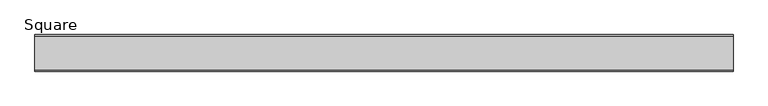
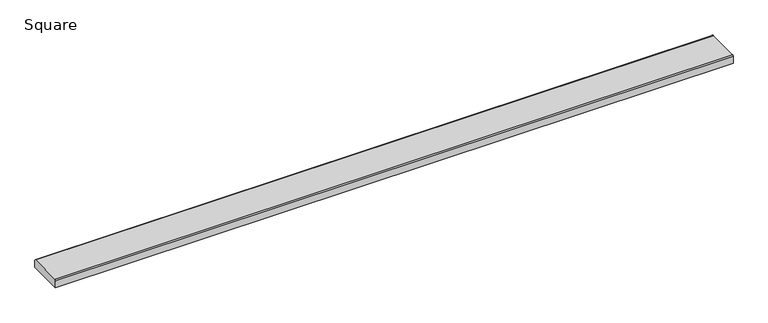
"""IFC4 building model written with IfcOpenShell, lengths in millimetres: sanitary terminal geometry, ZZZ_do not use_PF_ST_UN_grating for ShowerDrain C INT_ACO : Square."""

from ifc_helpers import new_model, si_unit, point, frame, frame_2d, origin, place, context, project, spatial, polyline, circle_curve, trimmed, segment, composite_curve, outline, extrude, source, transform, mapped, element, save


def square_9a3e43a5(model_context):
    return source(origin(), model_context, "Body", "SweptSolid", [
        extrude(outline(composite_curve([segment(polyline([(31.0, -15.0), (-31.0, -15.0), (-31.0, -1.977849)]), True, "CONTINUOUS"), segment(trimmed(circle_curve(frame_2d((-29.022151, -1.977849)), 1.977849), [point((-31.0, -1.977849))], [point((-29.022151, 0.0))], False, "CARTESIAN"), True, "CONTINUOUS"), segment(polyline([(-29.022151, 0.0), (29.022151, 0.0)]), True, "CONTINUOUS"), segment(trimmed(circle_curve(frame_2d((29.022151, -1.977849)), 1.977849), [point((29.022151, 0.0))], [point((31.0, -1.977849))], False, "CARTESIAN"), True, "CONTINUOUS"), segment(polyline([(31.0, -1.977849), (31.0, -15.0)]), True, "CONTINUOUS")], self_intersect=False)), frame((-590.5, 0.0, 0.0), z_axis=(1.0, 0.0, 0.0), x_axis=(0.0, 1.0, 0.0)), (0.0, 0.0, 1.0), 1181.0),
    ])


if __name__ == "__main__":
    model = new_model("IFC4")
    model_context = context("Model", 3, world=origin())
    ifc_project = project(units=[si_unit("LENGTHUNIT", "METRE", prefix="MILLI")], contexts=[model_context])
    site = spatial("IfcSite", under=ifc_project)
    building = spatial("IfcBuilding", under=site)
    placement = place(None, origin())
    square_shape = square_9a3e43a5(model_context)
    element("IfcSanitaryTerminal", 1, ObjectType="ZZZ_do not use_PF_ST_UN_grating for ShowerDrain C INT_ACO : Square", at=placement, inside=building, context=model_context, shape_type="MappedRepresentation", body=[
        mapped(square_shape, transform((0.0, 0.0, 0.0), x_axis=(1.0, 0.0, 0.0), y_axis=(0.0, 1.0, 0.0), z_axis=(0.0, 0.0, 1.0))),
    ])
    save(model, "model.ifc")
